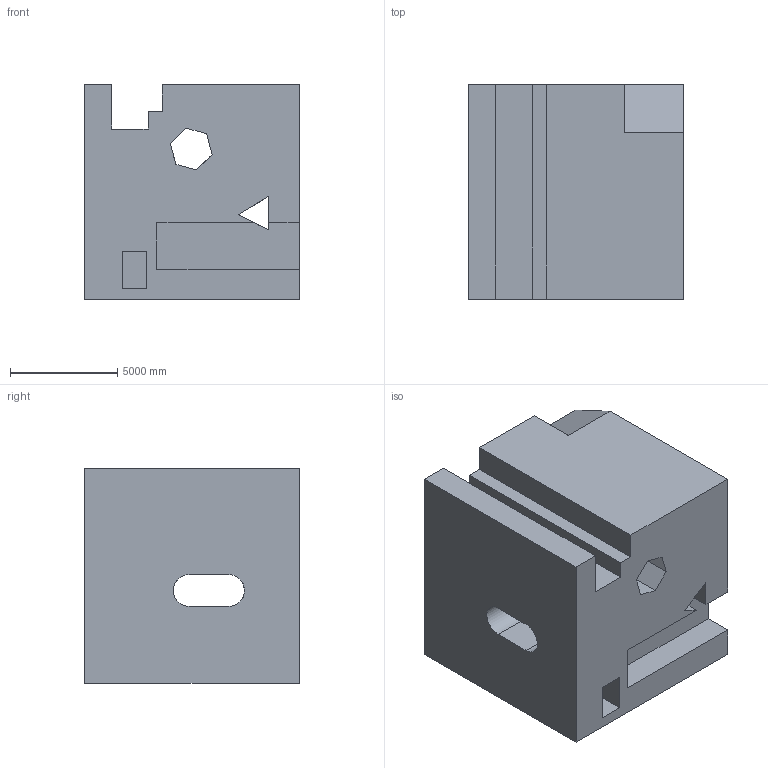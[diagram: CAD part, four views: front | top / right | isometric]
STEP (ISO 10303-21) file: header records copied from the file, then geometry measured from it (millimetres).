
FILE_DESCRIPTION (( 'STEP AP203' ), '1' );
FILE_NAME ('1818.STEP', '2022-08-26T10:40:14', ( 'user' ), ( '' ), 'SwSTEP 2.0', 'SolidWorks 2021', '' );
FILE_SCHEMA (( 'CONFIG_CONTROL_DESIGN' ));
Length unit declared in the file: centimetre
Products named in the file (1): 1818
Bounding box: 10000 x 10000 x 10000 mm (x, y, z)
Volume: 840472223835.8 mm3; surface area: 826103569.2 mm2
Topology: 1 solids, 1 shells, 45 faces, 138 edges, 92 vertices
Faces by surface type: plane 41, cylinder 4
Entity records: 1615 total; most frequent: CARTESIAN_POINT 300, ORIENTED_EDGE 276, DIRECTION 232, EDGE_CURVE 138, VECTOR 120, LINE 120, VERTEX_POINT 92, AXIS2_PLACEMENT_3D 56
